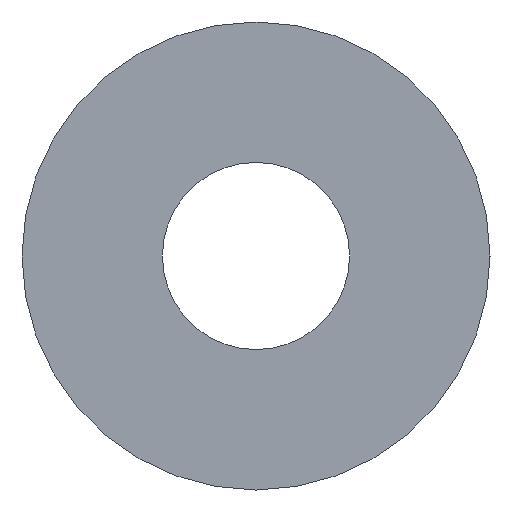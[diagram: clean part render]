
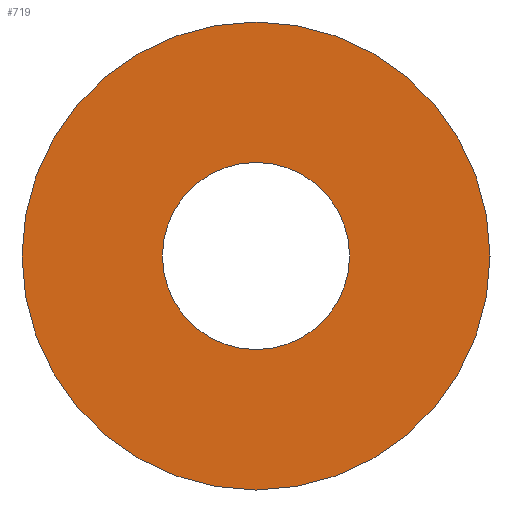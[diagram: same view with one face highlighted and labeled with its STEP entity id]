
A CAD part, left-side view. The second image highlights one B-rep face of the part: STEP entity #719.
In plain terms, the highlighted planar face has unit normal (-1, 0, 0).
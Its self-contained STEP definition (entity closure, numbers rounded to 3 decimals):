
#64 = CIRCLE ( 'NONE', #591, 3. ) ;
#67 = CARTESIAN_POINT ( 'NONE',  ( -8., 0., 0. ) ) ;
#71 = DIRECTION ( 'NONE',  ( -1., 0., 0. ) ) ;
#72 = ORIENTED_EDGE ( 'NONE', *, *, #425, .T. ) ;
#73 = VERTEX_POINT ( 'NONE', #697 ) ;
#107 = DIRECTION ( 'NONE',  ( -1., 0., 0. ) ) ;
#113 = AXIS2_PLACEMENT_3D ( 'NONE', #67, #461, #290 ) ;
#145 = AXIS2_PLACEMENT_3D ( 'NONE', #392, #340, #562 ) ;
#150 = PLANE ( 'NONE',  #113 ) ;
#172 = CARTESIAN_POINT ( 'NONE',  ( -8., 0., 0. ) ) ;
#182 = CIRCLE ( 'NONE', #657, 3. ) ;
#183 = CARTESIAN_POINT ( 'NONE',  ( -8., 0., -7.5 ) ) ;
#197 = FACE_OUTER_BOUND ( 'NONE', #399, .T. ) ;
#238 = DIRECTION ( 'NONE',  ( 0., 0., 1. ) ) ;
#242 = CARTESIAN_POINT ( 'NONE',  ( -8., 0., -3. ) ) ;
#244 = VERTEX_POINT ( 'NONE', #379 ) ;
#252 = FACE_BOUND ( 'NONE', #661, .T. ) ;
#269 = ORIENTED_EDGE ( 'NONE', *, *, #507, .T. ) ;
#274 = AXIS2_PLACEMENT_3D ( 'NONE', #172, #71, #238 ) ;
#290 = DIRECTION ( 'NONE',  ( 0., 0., -1. ) ) ;
#309 = CARTESIAN_POINT ( 'NONE',  ( -8., 0., 0. ) ) ;
#328 = DIRECTION ( 'NONE',  ( 0., 0., 1. ) ) ;
#340 = DIRECTION ( 'NONE',  ( -1., 0., 0. ) ) ;
#346 = ORIENTED_EDGE ( 'NONE', *, *, #664, .F. ) ;
#360 = ORIENTED_EDGE ( 'NONE', *, *, #535, .F. ) ;
#379 = CARTESIAN_POINT ( 'NONE',  ( -8., 0., 7.5 ) ) ;
#392 = CARTESIAN_POINT ( 'NONE',  ( -8., 0., 0. ) ) ;
#399 = EDGE_LOOP ( 'NONE', ( #269, #72 ) ) ;
#411 = DIRECTION ( 'NONE',  ( -1., 0., 0. ) ) ;
#425 = EDGE_CURVE ( 'NONE', #467, #244, #702, .T. ) ;
#461 = DIRECTION ( 'NONE',  ( 1., 0., 0. ) ) ;
#467 = VERTEX_POINT ( 'NONE', #183 ) ;
#481 = DIRECTION ( 'NONE',  ( 0., 0., 1. ) ) ;
#488 = CARTESIAN_POINT ( 'NONE',  ( -8., 0., 0. ) ) ;
#507 = EDGE_CURVE ( 'NONE', #244, #467, #678, .T. ) ;
#522 = VERTEX_POINT ( 'NONE', #242 ) ;
#535 = EDGE_CURVE ( 'NONE', #73, #522, #64, .T. ) ;
#562 = DIRECTION ( 'NONE',  ( 0., 0., 1. ) ) ;
#591 = AXIS2_PLACEMENT_3D ( 'NONE', #309, #411, #481 ) ;
#657 = AXIS2_PLACEMENT_3D ( 'NONE', #488, #107, #328 ) ;
#661 = EDGE_LOOP ( 'NONE', ( #360, #346 ) ) ;
#664 = EDGE_CURVE ( 'NONE', #522, #73, #182, .T. ) ;
#678 = CIRCLE ( 'NONE', #145, 7.5 ) ;
#697 = CARTESIAN_POINT ( 'NONE',  ( -8., 0., 3. ) ) ;
#702 = CIRCLE ( 'NONE', #274, 7.5 ) ;
#719 = ADVANCED_FACE ( 'NONE', ( #252, #197 ), #150, .F. ) ;
